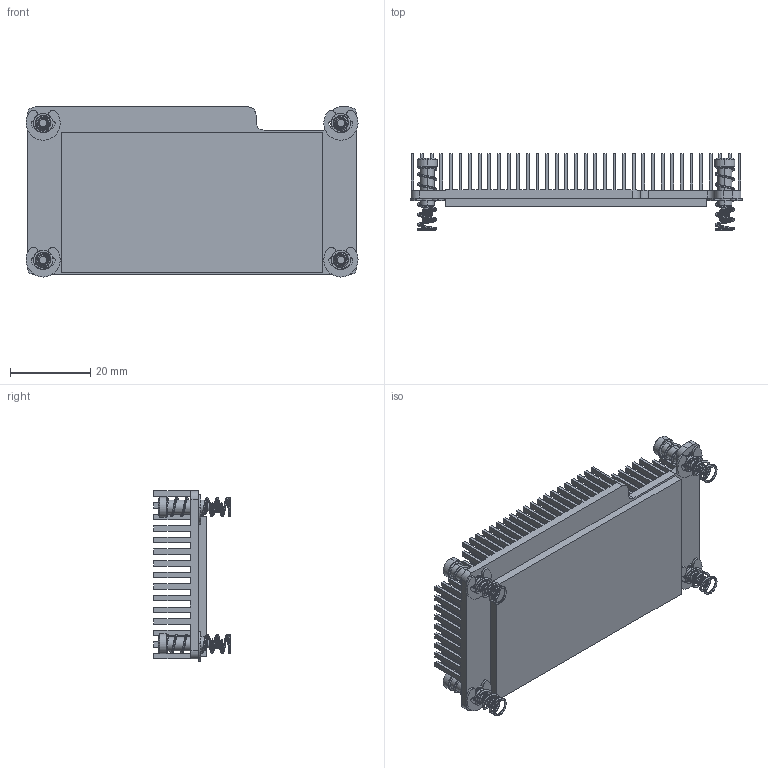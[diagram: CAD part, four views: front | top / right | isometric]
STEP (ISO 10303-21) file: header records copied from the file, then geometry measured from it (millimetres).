
FILE_DESCRIPTION (( 'STEP AP214' ), '1' );
FILE_NAME ('450-00238.STEP', '2025-12-16T14:08:30', ( '' ), ( '' ), 'SwSTEP 2.0', 'SolidWorks 2025', '' );
FILE_SCHEMA (( 'AUTOMOTIVE_DESIGN' ));
Length unit declared in the file: millimetre
Products named in the file (6): 540-00054_90278A729; 110-00011; 106-00015; 540-00055_99179A101; 450-00238; 110-00022
Assembly tree (14 placements, depth 2):
  450-00238
    110-00022
    540-00054_90278A729  x4
    540-00055_99179A101  x4
    110-00011  x4
    106-00015
Bounding box: 82.5 x 18.93 x 42.25 mm (x, y, z)
Volume: 15834.6 mm3; surface area: 31338.2 mm2
Topology: 14 solids, 14 shells, 2657 faces, 6553 edges, 4342 vertices
Faces by surface type: plane 2385, cylinder 180, cone 64, bspline 20, torus 8
Entity records: 73232 total; most frequent: CARTESIAN_POINT 16136, ORIENTED_EDGE 11804, DIRECTION 10762, EDGE_CURVE 5902, VECTOR 5730, LINE 5730, VERTEX_POINT 3928, EDGE_LOOP 2798
